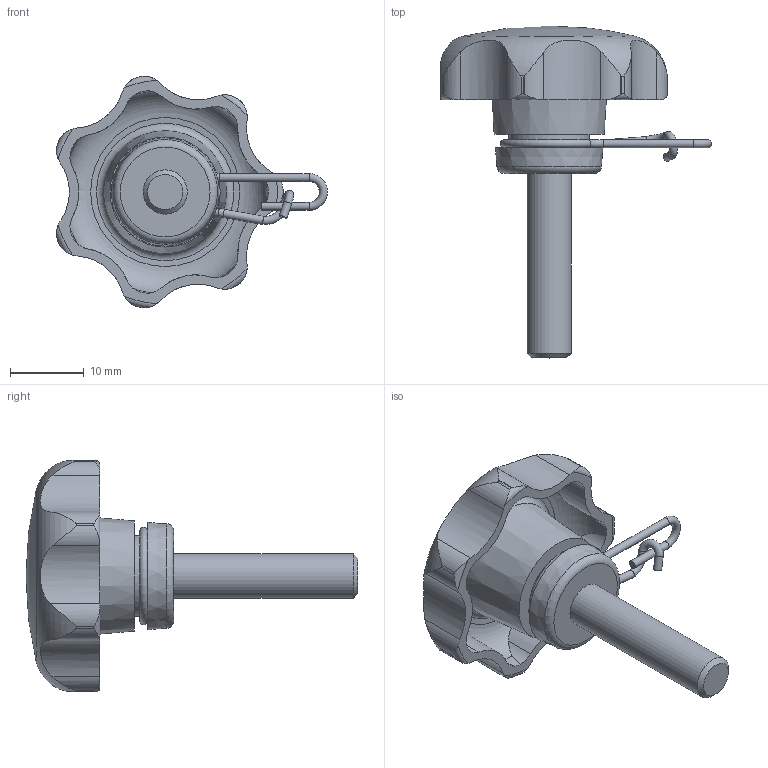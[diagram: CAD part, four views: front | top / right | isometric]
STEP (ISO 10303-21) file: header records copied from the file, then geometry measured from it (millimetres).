
FILE_DESCRIPTION( ( 'STEP AP203' ), '1' );
FILE_NAME( 'C:/Temp/Ganter_Step_05_03_2020/data/2_2/gn_6336_13/gn_6336_13_2/Star knob GN 6336.13-32-M6-25-A.stp', '2020-03-05T12:11:07', ( 'License CC BY-ND 4.0' ), ( 'CADENAS' ), ' ', 'PARTsolutions', ' ' );
FILE_SCHEMA( ( 'CONFIG_CONTROL_DESIGN' ) );
Length unit declared in the file: millimetre
Products named in the file (1): _Star knob GN 6336.13-32-M6-25-A
Bounding box: 36.73 x 45 x 31.36 mm (x, y, z)
Volume: 6399.1 mm3; surface area: 3989.1 mm2
Topology: 1 solids, 1 shells, 99 faces, 272 edges, 177 vertices
Faces by surface type: cylinder 61, torus 18, cone 11, plane 8, sphere 1
Full cylindrical faces by diameter (mm): 1.1 x4, 1.11 x1, 6 x1, 10.9 x1
Entity records: 3909 total; most frequent: CARTESIAN_POINT 1557, ORIENTED_EDGE 482, DIRECTION 461, EDGE_CURVE 241, AXIS2_PLACEMENT_3D 207, VERTEX_POINT 171, EDGE_LOOP 125, FACE_OUTER_BOUND 116
